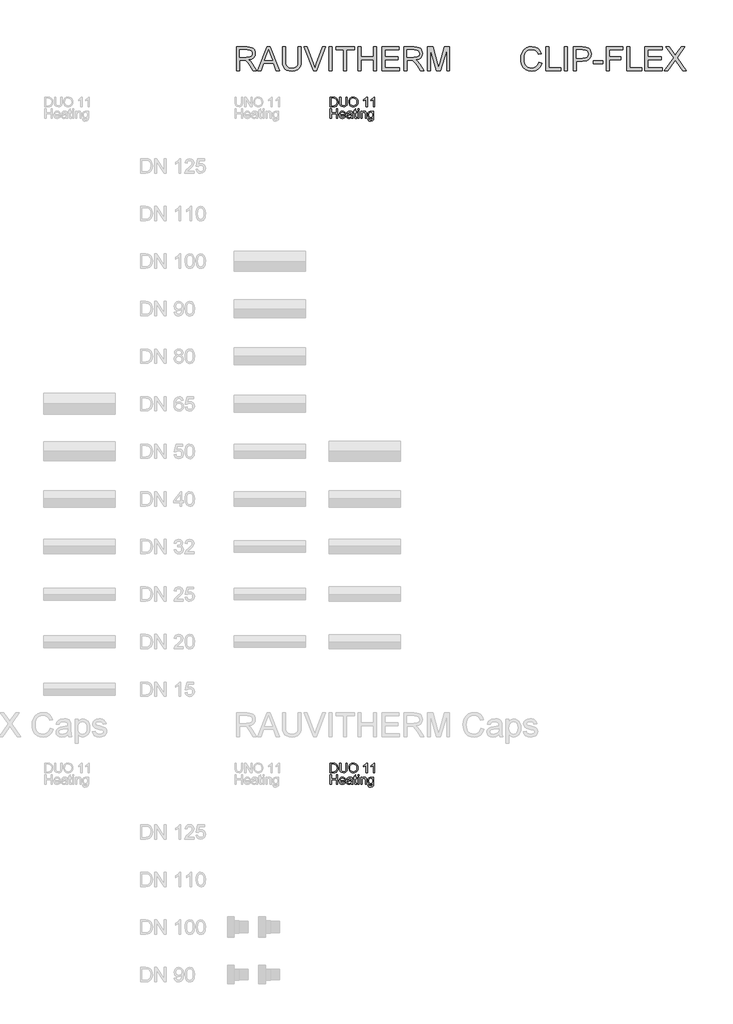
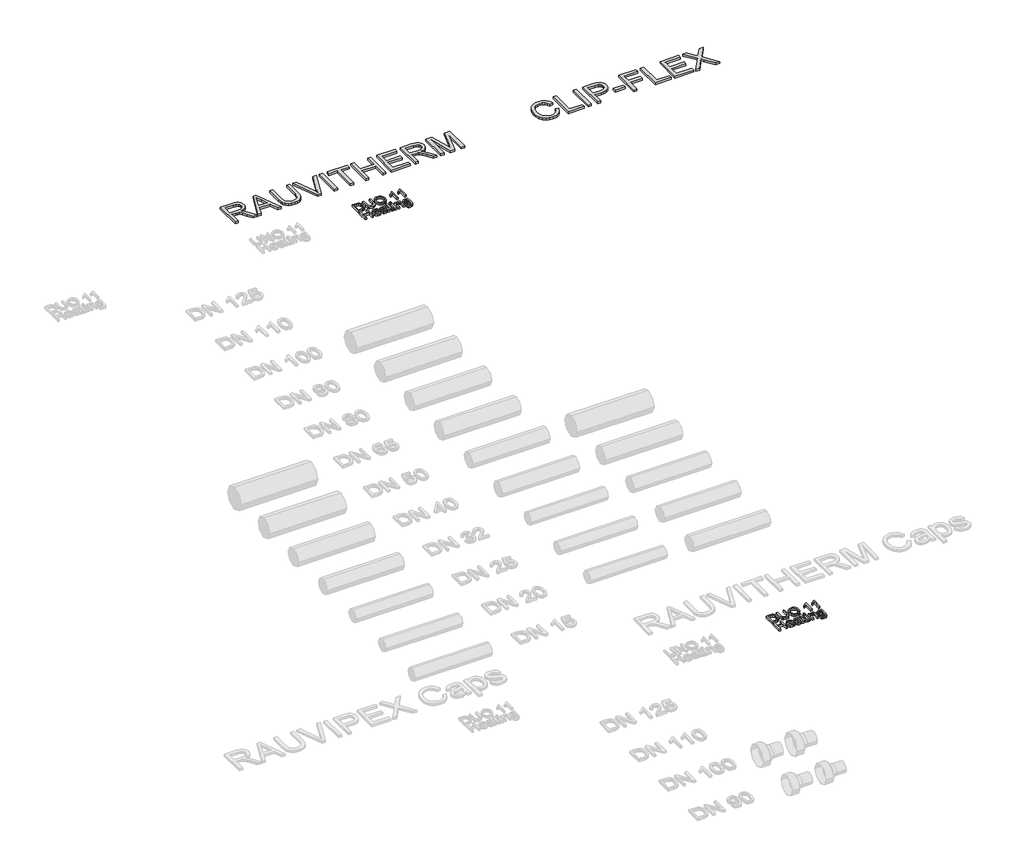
# One storey, part 44 of 44: 4 proxies.
"""IFC4 building model written with IfcOpenShell, lengths in millimetres."""

from ifc_helpers import new_model, si_unit, origin, origin_with_axes, place, context, project, spatial, polyline, outline, extrude, element, save

model = new_model("IFC4")

# Units and contexts
model_context = context("Model", 3, world=origin())
ifc_project = project(units=[si_unit("LENGTHUNIT", "METRE", prefix="MILLI")], contexts=[model_context])

# Site, building, storey
site = spatial("IfcSite", under=ifc_project)
building = spatial("IfcBuilding", under=site)
storey = spatial("IfcBuildingStorey", under=building, Name="REHAU Starting view", Elevation=0.0)

# Proxies
placement = place(None, origin())
element("IfcBuildingElementProxy", 1, Name="100", ObjectType="100", at=placement, inside=storey, context=model_context, shape_type="SweptSolid", body=[
    extrude(outline(polyline([(32010.9874089, 20121.9748178), (32010.9874089, 20222.431128), (32045.6418929, 20222.431128), (32063.5700088, 20220.9841255), (32078.3343395, 20213.7981638), (32090.2291907, 20196.6303374), (32094.1777908, 20172.7425332), (32091.5045149, 20152.4722352), (32084.6373844, 20137.8427946), (32075.4648599, 20128.7315838), (32063.4596442, 20123.6916005), (32047.3096246, 20121.9748178), (32010.9874089, 20121.9748178)]), holes=[polyline([(32023.5444477, 20134.5318566), (32045.7645202, 20134.5318566), (32061.9268025, 20136.3467411), (32071.2464797, 20141.4725636), (32078.8861625, 20153.9437632), (32081.620752, 20172.9387369), (32080.2810484, 20186.6239471), (32076.2619376, 20196.7284393), (32063.2266522, 20207.863001), (32045.4211637, 20209.8740892), (32023.5444477, 20209.8740892), (32023.5444477, 20134.5318566)])]), origin_with_axes(), (0.0, 0.0, 1.0), 20.0),
    extrude(outline(polyline([(32177.3681726, 20222.431128), (32189.9252114, 20222.431128), (32189.9252114, 20164.477451), (32186.5161716, 20140.4547567), (32174.2289129, 20125.9847316), (32163.9650053, 20121.8000739), (32150.9297199, 20120.405188), (32127.9861461, 20125.2612303), (32120.3464634, 20131.2055902), (32115.2574291, 20139.3265853), (32111.4437191, 20164.477451), (32111.4437191, 20222.431128), (32124.0007578, 20222.431128), (32124.0007578, 20164.9189094), (32126.4778299, 20145.7767829), (32134.9881668, 20136.2976902), (32149.7524975, 20132.9622268), (32162.5241341, 20134.6115644), (32171.0160768, 20139.5595772), (32175.7801487, 20149.1980855), (32177.3681726, 20164.9189094), (32177.3681726, 20222.431128)])), origin_with_axes(), (0.0, 0.0, 1.0), 20.0),
    extrude(outline(polyline([(32207.1911397, 20170.8785977), (32210.5388658, 20193.0925389), (32220.5820443, 20209.8986147), (32235.9165921, 20220.4752221), (32255.1384264, 20224.0007578), (32268.3147332, 20222.3452889), (32280.1298766, 20217.3788819), (32289.9400631, 20209.4510249), (32297.1014993, 20198.9112058), (32301.479295, 20186.2683279), (32302.9385603, 20172.0312947), (32301.402653, 20157.6041891), (32296.794931, 20144.7835015), (32289.369846, 20134.2252883), (32279.3818499, 20126.5856055), (32267.667874, 20121.9502924), (32255.06485, 20120.405188), (32241.6862081, 20122.1127736), (32229.8036197, 20127.2355304), (32220.0179586, 20135.3105402), (32212.9300988, 20145.8748848), (32207.1911397, 20170.8785977)]), holes=[polyline([(32219.7481785, 20170.7559704), (32222.2589731, 20155.0412778), (32229.7913569, 20143.0667189), (32241.1129253, 20135.4883498), (32254.9912736, 20132.9622268), (32269.071957, 20135.5128753), (32280.4119195, 20143.1648208), (32287.889121, 20155.5072617), (32290.3815215, 20172.1293965), (32286.1140904, 20192.8534156), (32273.6428907, 20206.575414), (32255.2120028, 20211.4437191), (32241.7046022, 20209.0984714), (32230.2205526, 20202.0627282), (32222.366272, 20189.5455433), (32219.7481785, 20170.7559704)])]), origin_with_axes(), (0.0, 0.0, 1.0), 20.0),
    extrude(outline(polyline([(32401.8252406, 20121.9748178), (32389.2682018, 20121.9748178), (32389.2682018, 20200.2601064), (32377.3733507, 20191.7865578), (32364.1541243, 20185.4467247), (32364.1541243, 20197.3170505), (32382.5604868, 20209.0647488), (32393.7318367, 20222.431128), (32401.8252406, 20222.431128), (32401.8252406, 20121.9748178)])), origin_with_axes(), (0.0, 0.0, 1.0), 20.0),
    extrude(outline(polyline([(32478.7371031, 20121.9748178), (32466.1800643, 20121.9748178), (32466.1800643, 20200.2601064), (32454.2852131, 20191.7865578), (32441.0659868, 20185.4467247), (32441.0659868, 20197.3170505), (32459.4723492, 20209.0647488), (32470.6436992, 20222.431128), (32478.7371031, 20222.431128), (32478.7371031, 20121.9748178)])), origin_with_axes(), (0.0, 0.0, 1.0), 20.0),
    extrude(outline(polyline([(32010.9874089, 20000.0), (32010.9874089, 20100.4563101), (32023.5444477, 20100.4563101), (32023.5444477, 20059.6459342), (32076.9118625, 20059.6459342), (32076.9118625, 20100.4563101), (32089.4689012, 20100.4563101), (32089.4689012, 20000.0), (32076.9118625, 20000.0), (32076.9118625, 20047.0888954), (32023.5444477, 20047.0888954), (32023.5444477, 20000.0), (32010.9874089, 20000.0)])), origin_with_axes(), (0.0, 0.0, 1.0), 20.0),
    extrude(outline(polyline([(32161.5247213, 20021.9748178), (32173.8365055, 20020.405188), (32169.4004617, 20011.1284304), (32162.321799, 20004.1938547), (32152.7599328, 19999.8712413), (32140.8742787, 19998.4303702), (32126.1406048, 20000.9166393), (32114.803708, 20008.3754468), (32107.5748268, 20020.3224146), (32105.1651997, 20036.2731647), (32107.5993522, 20052.7604095), (32114.9018098, 20065.0905877), (32126.0854225, 20072.7793214), (32140.1630402, 20075.3422326), (32153.8022651, 20072.7854527), (32164.7007692, 20065.1151131), (32171.846877, 20052.8094604), (32174.2289129, 20036.3467411), (32174.1553365, 20032.9622268), (32117.7222385, 20032.9622268), (32119.8958079, 20023.5628418), (32124.9449883, 20016.6527916), (32132.2321175, 20012.4037546), (32141.1195333, 20010.9874089), (32153.4313175, 20013.6116338), (32161.5247213, 20021.9748178)]), holes=[polyline([(32117.7222385, 20045.5192655), (32161.6718741, 20045.5192655), (32156.6441535, 20056.8990819), (32149.3233018, 20061.3136659), (32140.1139892, 20062.7851938), (32124.6506827, 20058.088567), (32119.7854433, 20052.5979283), (32117.7222385, 20045.5192655)])]), origin_with_axes(), (0.0, 0.0, 1.0), 20.0),
    extrude(outline(polyline([(32233.8748471, 20009.4177791), (32221.697953, 20000.9074423), (32208.2457347, 19998.4303702), (32197.7519008, 19999.9202922), (32190.0110505, 20004.3900585), (32185.2377816, 20011.1774813), (32183.646692, 20019.6203731), (32186.0501877, 20029.5531869), (32192.3654953, 20036.7636741), (32201.157875, 20040.8839524), (32212.0226566, 20042.7724133), (32233.8012707, 20047.0888954), (32233.8748471, 20049.8847985), (32230.4167563, 20059.1554248), (32216.5353424, 20062.7851938), (32203.8311508, 20060.3694354), (32197.7733606, 20051.7977849), (32185.2163218, 20053.3674148), (32190.6487126, 20065.6301479), (32201.5870706, 20072.8161096), (32218.1540231, 20075.3422326), (32233.372075, 20073.1104152), (32241.968251, 20067.5063461), (32245.8187492, 20058.9837466), (32246.4318858, 20047.9963376), (32246.4318858, 20032.3736156), (32247.069548, 20010.5582133), (32249.5711455, 20000.0), (32237.0141068, 20000.0), (32233.8748471, 20009.4177791)]), holes=[polyline([(32233.8748471, 20034.5318566), (32213.6168119, 20030.6813584), (32202.8133439, 20028.6457447), (32197.9205134, 20025.3348067), (32196.2037308, 20020.5032899), (32199.9438644, 20013.7097357), (32210.9190106, 20010.9874089), (32223.6232021, 20013.9917785), (32231.8147079, 20021.2635793), (32233.8012707, 20030.975664), (32233.8748471, 20034.5318566)])]), origin_with_axes(), (0.0, 0.0, 1.0), 20.0),
    extrude(outline(polyline([(32290.3815215, 20010.4723741), (32291.9511514, 19999.632118), (32282.5578978, 19998.4303702), (32272.0364727, 20000.5150348), (32266.7880229, 20005.9842138), (32265.267444, 20020.2335097), (32265.267444, 20061.215564), (32255.8496649, 20061.215564), (32255.8496649, 20073.7726028), (32265.267444, 20073.7726028), (32265.267444, 20091.7007187), (32277.8244828, 20099.082884), (32277.8244828, 20073.7726028), (32290.3815215, 20073.7726028), (32290.3815215, 20061.215564), (32277.8244828, 20061.215564), (32277.8244828, 20020.6013917), (32278.4866703, 20014.1266686), (32280.6326487, 20011.8335375), (32284.9123425, 20010.9874089), (32290.3815215, 20010.4723741)])), origin_with_axes(), (0.0, 0.0, 1.0), 20.0),
    extrude(outline(polyline([(32302.9385603, 20087.8992714), (32302.9385603, 20100.4563101), (32315.4955991, 20100.4563101), (32315.4955991, 20087.8992714), (32302.9385603, 20087.8992714)])), origin_with_axes(), (0.0, 0.0, 1.0), 20.0),
    extrude(outline(polyline([(32302.9385603, 20000.0), (32302.9385603, 20073.7726028), (32315.4955991, 20073.7726028), (32315.4955991, 20000.0), (32302.9385603, 20000.0)])), origin_with_axes(), (0.0, 0.0, 1.0), 20.0),
    extrude(outline(polyline([(32334.3311572, 20000.0), (32334.3311572, 20073.7726028), (32346.888196, 20073.7726028), (32346.888196, 20063.4719069), (32356.4899161, 20072.3746512), (32369.5987778, 20075.3422326), (32381.4568408, 20072.9509996), (32389.5502447, 20066.6724803), (32393.3149038, 20057.4386422), (32393.9770914, 20045.2985363), (32393.9770914, 20000.0), (32381.4200526, 20000.0), (32381.4200526, 20043.6062792), (32379.9730501, 20054.7163154), (32374.8594904, 20060.5901646), (32366.2387889, 20062.7851938), (32352.6148924, 20057.8555751), (32348.3198701, 20050.712533), (32346.888196, 20039.1426443), (32346.888196, 20000.0), (32334.3311572, 20000.0)])), origin_with_axes(), (0.0, 0.0, 1.0), 20.0),
    extrude(outline(polyline([(32408.10376, 19993.7214806), (32420.6607988, 19992.1518508), (32424.7320262, 19985.5299749), (32436.9211829, 19982.7340717), (32449.7725273, 19985.8978569), (32455.9038939, 19994.7760757), (32456.7622852, 20009.4177791), (32447.9208546, 20002.3544448), (32437.1419121, 20000.0), (32424.1955316, 20002.7407209), (32414.5416949, 20010.9628835), (32408.5360213, 20023.0171502), (32406.5341301, 20037.2541834), (32410.127111, 20056.7151409), (32420.5259087, 20070.4861903), (32436.5287755, 20075.3422326), (32447.7307822, 20072.5953804), (32456.7622852, 20064.3548237), (32456.7622852, 20073.7726028), (32469.319324, 20073.7726028), (32469.319324, 20010.0799667), (32465.8857587, 19985.6893904), (32455.0087144, 19974.3463622), (32436.6759283, 19970.1770329), (32424.9926092, 19971.6454952), (32415.7924937, 19976.0508821), (32409.8910533, 19983.4054563), (32408.10376, 19993.7214806)]), holes=[polyline([(32419.0911689, 20038.1125747), (32420.4308725, 20026.5948026), (32424.4499833, 20018.6761426), (32430.4924451, 20014.0868147), (32437.9022016, 20012.5570388), (32445.2567758, 20014.0776177), (32451.3298944, 20018.6393544), (32455.4041875, 20026.4568468), (32456.7622852, 20037.7446927), (32455.3643336, 20048.6309341), (32451.1704789, 20056.4698863), (32445.0084555, 20061.2063669), (32437.7059979, 20062.7851938), (32430.5353646, 20061.2308924), (32424.5235597, 20056.5679881), (32420.4492666, 20048.8455319), (32419.0911689, 20038.1125747)])]), origin_with_axes(), (0.0, 0.0, 1.0), 20.0),
])
element("IfcBuildingElementProxy", 2, Name="100", ObjectType="100", at=placement, inside=storey, context=model_context, shape_type="SweptSolid", body=[
    extrude(outline(polyline([(32010.9874089, 13121.9748178), (32010.9874089, 13222.431128), (32045.6418929, 13222.431128), (32063.5700088, 13220.9841255), (32078.3343395, 13213.7981638), (32090.2291907, 13196.6303374), (32094.1777908, 13172.7425332), (32091.5045149, 13152.4722352), (32084.6373844, 13137.8427946), (32075.4648599, 13128.7315838), (32063.4596442, 13123.6916005), (32047.3096246, 13121.9748178), (32010.9874089, 13121.9748178)]), holes=[polyline([(32023.5444477, 13134.5318566), (32045.7645202, 13134.5318566), (32061.9268025, 13136.3467411), (32071.2464797, 13141.4725636), (32078.8861625, 13153.9437632), (32081.620752, 13172.9387369), (32080.2810484, 13186.6239471), (32076.2619376, 13196.7284393), (32063.2266522, 13207.863001), (32045.4211637, 13209.8740892), (32023.5444477, 13209.8740892), (32023.5444477, 13134.5318566)])]), origin_with_axes(), (0.0, 0.0, 1.0), 20.0),
    extrude(outline(polyline([(32177.3681726, 13222.431128), (32189.9252114, 13222.431128), (32189.9252114, 13164.477451), (32186.5161716, 13140.4547567), (32174.2289129, 13125.9847316), (32163.9650053, 13121.8000739), (32150.9297199, 13120.405188), (32127.9861461, 13125.2612303), (32120.3464634, 13131.2055902), (32115.2574291, 13139.3265853), (32111.4437191, 13164.477451), (32111.4437191, 13222.431128), (32124.0007578, 13222.431128), (32124.0007578, 13164.9189094), (32126.4778299, 13145.7767829), (32134.9881668, 13136.2976902), (32149.7524975, 13132.9622268), (32162.5241341, 13134.6115644), (32171.0160768, 13139.5595772), (32175.7801487, 13149.1980855), (32177.3681726, 13164.9189094), (32177.3681726, 13222.431128)])), origin_with_axes(), (0.0, 0.0, 1.0), 20.0),
    extrude(outline(polyline([(32207.1911397, 13170.8785977), (32210.5388658, 13193.0925389), (32220.5820443, 13209.8986147), (32235.9165921, 13220.4752221), (32255.1384264, 13224.0007578), (32268.3147332, 13222.3452889), (32280.1298766, 13217.3788819), (32289.9400631, 13209.4510249), (32297.1014993, 13198.9112058), (32301.479295, 13186.2683279), (32302.9385603, 13172.0312947), (32301.402653, 13157.6041891), (32296.794931, 13144.7835015), (32289.369846, 13134.2252883), (32279.3818499, 13126.5856055), (32267.667874, 13121.9502924), (32255.06485, 13120.405188), (32241.6862081, 13122.1127736), (32229.8036197, 13127.2355304), (32220.0179586, 13135.3105402), (32212.9300988, 13145.8748848), (32207.1911397, 13170.8785977)]), holes=[polyline([(32219.7481785, 13170.7559704), (32222.2589731, 13155.0412778), (32229.7913569, 13143.0667189), (32241.1129253, 13135.4883498), (32254.9912736, 13132.9622268), (32269.071957, 13135.5128753), (32280.4119195, 13143.1648208), (32287.889121, 13155.5072617), (32290.3815215, 13172.1293965), (32286.1140904, 13192.8534156), (32273.6428907, 13206.575414), (32255.2120028, 13211.4437191), (32241.7046022, 13209.0984714), (32230.2205526, 13202.0627282), (32222.366272, 13189.5455433), (32219.7481785, 13170.7559704)])]), origin_with_axes(), (0.0, 0.0, 1.0), 20.0),
    extrude(outline(polyline([(32401.8252406, 13121.9748178), (32389.2682018, 13121.9748178), (32389.2682018, 13200.2601064), (32377.3733507, 13191.7865578), (32364.1541243, 13185.4467247), (32364.1541243, 13197.3170505), (32382.5604868, 13209.0647488), (32393.7318367, 13222.431128), (32401.8252406, 13222.431128), (32401.8252406, 13121.9748178)])), origin_with_axes(), (0.0, 0.0, 1.0), 20.0),
    extrude(outline(polyline([(32478.7371031, 13121.9748178), (32466.1800643, 13121.9748178), (32466.1800643, 13200.2601064), (32454.2852131, 13191.7865578), (32441.0659868, 13185.4467247), (32441.0659868, 13197.3170505), (32459.4723492, 13209.0647488), (32470.6436992, 13222.431128), (32478.7371031, 13222.431128), (32478.7371031, 13121.9748178)])), origin_with_axes(), (0.0, 0.0, 1.0), 20.0),
    extrude(outline(polyline([(32010.9874089, 13000.0), (32010.9874089, 13100.4563101), (32023.5444477, 13100.4563101), (32023.5444477, 13059.6459342), (32076.9118625, 13059.6459342), (32076.9118625, 13100.4563101), (32089.4689012, 13100.4563101), (32089.4689012, 13000.0), (32076.9118625, 13000.0), (32076.9118625, 13047.0888954), (32023.5444477, 13047.0888954), (32023.5444477, 13000.0), (32010.9874089, 13000.0)])), origin_with_axes(), (0.0, 0.0, 1.0), 20.0),
    extrude(outline(polyline([(32161.5247213, 13021.9748178), (32173.8365055, 13020.405188), (32169.4004617, 13011.1284304), (32162.321799, 13004.1938547), (32152.7599328, 12999.8712413), (32140.8742787, 12998.4303702), (32126.1406048, 13000.9166393), (32114.803708, 13008.3754468), (32107.5748268, 13020.3224146), (32105.1651997, 13036.2731647), (32107.5993522, 13052.7604095), (32114.9018098, 13065.0905877), (32126.0854225, 13072.7793214), (32140.1630402, 13075.3422326), (32153.8022651, 13072.7854527), (32164.7007692, 13065.1151131), (32171.846877, 13052.8094604), (32174.2289129, 13036.3467411), (32174.1553365, 13032.9622268), (32117.7222385, 13032.9622268), (32119.8958079, 13023.5628418), (32124.9449883, 13016.6527916), (32132.2321175, 13012.4037546), (32141.1195333, 13010.9874089), (32153.4313175, 13013.6116338), (32161.5247213, 13021.9748178)]), holes=[polyline([(32117.7222385, 13045.5192655), (32161.6718741, 13045.5192655), (32156.6441535, 13056.8990819), (32149.3233018, 13061.3136659), (32140.1139892, 13062.7851938), (32124.6506827, 13058.088567), (32119.7854433, 13052.5979283), (32117.7222385, 13045.5192655)])]), origin_with_axes(), (0.0, 0.0, 1.0), 20.0),
    extrude(outline(polyline([(32233.8748471, 13009.4177791), (32221.697953, 13000.9074423), (32208.2457347, 12998.4303702), (32197.7519008, 12999.9202922), (32190.0110505, 13004.3900585), (32185.2377816, 13011.1774813), (32183.646692, 13019.6203731), (32186.0501877, 13029.5531869), (32192.3654953, 13036.7636741), (32201.157875, 13040.8839524), (32212.0226566, 13042.7724133), (32233.8012707, 13047.0888954), (32233.8748471, 13049.8847985), (32230.4167563, 13059.1554248), (32216.5353424, 13062.7851938), (32203.8311508, 13060.3694354), (32197.7733606, 13051.7977849), (32185.2163218, 13053.3674148), (32190.6487126, 13065.6301479), (32201.5870706, 13072.8161096), (32218.1540231, 13075.3422326), (32233.372075, 13073.1104152), (32241.968251, 13067.5063461), (32245.8187492, 13058.9837466), (32246.4318858, 13047.9963376), (32246.4318858, 13032.3736156), (32247.069548, 13010.5582133), (32249.5711455, 13000.0), (32237.0141068, 13000.0), (32233.8748471, 13009.4177791)]), holes=[polyline([(32233.8748471, 13034.5318566), (32213.6168119, 13030.6813584), (32202.8133439, 13028.6457447), (32197.9205134, 13025.3348067), (32196.2037308, 13020.5032899), (32199.9438644, 13013.7097357), (32210.9190106, 13010.9874089), (32223.6232021, 13013.9917785), (32231.8147079, 13021.2635793), (32233.8012707, 13030.975664), (32233.8748471, 13034.5318566)])]), origin_with_axes(), (0.0, 0.0, 1.0), 20.0),
    extrude(outline(polyline([(32290.3815215, 13010.4723741), (32291.9511514, 12999.632118), (32282.5578978, 12998.4303702), (32272.0364727, 13000.5150348), (32266.7880229, 13005.9842138), (32265.267444, 13020.2335097), (32265.267444, 13061.215564), (32255.8496649, 13061.215564), (32255.8496649, 13073.7726028), (32265.267444, 13073.7726028), (32265.267444, 13091.7007187), (32277.8244828, 13099.082884), (32277.8244828, 13073.7726028), (32290.3815215, 13073.7726028), (32290.3815215, 13061.215564), (32277.8244828, 13061.215564), (32277.8244828, 13020.6013917), (32278.4866703, 13014.1266686), (32280.6326487, 13011.8335375), (32284.9123425, 13010.9874089), (32290.3815215, 13010.4723741)])), origin_with_axes(), (0.0, 0.0, 1.0), 20.0),
    extrude(outline(polyline([(32302.9385603, 13087.8992714), (32302.9385603, 13100.4563101), (32315.4955991, 13100.4563101), (32315.4955991, 13087.8992714), (32302.9385603, 13087.8992714)])), origin_with_axes(), (0.0, 0.0, 1.0), 20.0),
    extrude(outline(polyline([(32302.9385603, 13000.0), (32302.9385603, 13073.7726028), (32315.4955991, 13073.7726028), (32315.4955991, 13000.0), (32302.9385603, 13000.0)])), origin_with_axes(), (0.0, 0.0, 1.0), 20.0),
    extrude(outline(polyline([(32334.3311572, 13000.0), (32334.3311572, 13073.7726028), (32346.888196, 13073.7726028), (32346.888196, 13063.4719069), (32356.4899161, 13072.3746512), (32369.5987778, 13075.3422326), (32381.4568408, 13072.9509996), (32389.5502447, 13066.6724803), (32393.3149038, 13057.4386422), (32393.9770914, 13045.2985363), (32393.9770914, 13000.0), (32381.4200526, 13000.0), (32381.4200526, 13043.6062792), (32379.9730501, 13054.7163154), (32374.8594904, 13060.5901646), (32366.2387889, 13062.7851938), (32352.6148924, 13057.8555751), (32348.3198701, 13050.712533), (32346.888196, 13039.1426443), (32346.888196, 13000.0), (32334.3311572, 13000.0)])), origin_with_axes(), (0.0, 0.0, 1.0), 20.0),
    extrude(outline(polyline([(32408.10376, 12993.7214806), (32420.6607988, 12992.1518508), (32424.7320262, 12985.5299749), (32436.9211829, 12982.7340717), (32449.7725273, 12985.8978569), (32455.9038939, 12994.7760757), (32456.7622852, 13009.4177791), (32447.9208546, 13002.3544448), (32437.1419121, 13000.0), (32424.1955316, 13002.7407209), (32414.5416949, 13010.9628835), (32408.5360213, 13023.0171502), (32406.5341301, 13037.2541834), (32410.127111, 13056.7151409), (32420.5259087, 13070.4861903), (32436.5287755, 13075.3422326), (32447.7307822, 13072.5953804), (32456.7622852, 13064.3548237), (32456.7622852, 13073.7726028), (32469.319324, 13073.7726028), (32469.319324, 13010.0799667), (32465.8857587, 12985.6893904), (32455.0087144, 12974.3463622), (32436.6759283, 12970.1770329), (32424.9926092, 12971.6454952), (32415.7924937, 12976.0508821), (32409.8910533, 12983.4054563), (32408.10376, 12993.7214806)]), holes=[polyline([(32419.0911689, 13038.1125747), (32420.4308725, 13026.5948026), (32424.4499833, 13018.6761426), (32430.4924451, 13014.0868147), (32437.9022016, 13012.5570388), (32445.2567758, 13014.0776177), (32451.3298944, 13018.6393544), (32455.4041875, 13026.4568468), (32456.7622852, 13037.7446927), (32455.3643336, 13048.6309341), (32451.1704789, 13056.4698863), (32445.0084555, 13061.2063669), (32437.7059979, 13062.7851938), (32430.5353646, 13061.2308924), (32424.5235597, 13056.5679881), (32420.4492666, 13048.8455319), (32419.0911689, 13038.1125747)])]), origin_with_axes(), (0.0, 0.0, 1.0), 20.0),
])
element("IfcBuildingElementProxy", 3, Name="250", ObjectType="250", at=placement, inside=storey, context=model_context, shape_type="SweptSolid", body=[
    extrude(outline(polyline([(31027.4685223, 20500.0), (31027.4685223, 20751.1407754), (31135.6871426, 20751.1407754), (31164.7728128, 20749.4469854), (31185.9336917, 20744.3656153), (31201.4000639, 20734.9846244), (31213.402214, 20720.3919719), (31221.1047433, 20702.2967763), (31223.6722531, 20682.4081559), (31219.4186175, 20657.6680918), (31206.6577108, 20637.1586705), (31185.0063225, 20622.121494), (31154.0812423, 20613.7981638), (31171.9235191, 20600.370471), (31197.3686904, 20568.0581691), (31239.2459242, 20500.0), (31202.764293, 20500.0), (31170.0841091, 20552.0553023), (31146.4783477, 20586.5135825), (31129.8930011, 20602.7923608), (31114.9631235, 20608.7704432), (31096.7529647, 20609.8740892), (31058.8611192, 20609.8740892), (31058.8611192, 20500.0), (31027.4685223, 20500.0)]), holes=[polyline([(31058.8611192, 20641.2666861), (31129.1265803, 20641.2666861), (31164.964418, 20645.7119269), (31176.7519703, 20651.4907399), (31185.3205551, 20659.9366974), (31190.5398809, 20670.153087), (31192.2796561, 20681.2431963), (31188.961054, 20696.5562843), (31179.0052475, 20708.8956596), (31161.8757421, 20717.0350487), (31137.0360432, 20719.7481785), (31058.8611192, 20719.7481785), (31058.8611192, 20641.2666861)])]), origin_with_axes(), (0.0, 0.0, 1.0), 20.0),
    extrude(outline(polyline([(31249.3626791, 20500.0), (31349.6105227, 20751.1407754), (31376.3432811, 20751.1407754), (31476.5911248, 20500.0), (31443.4204315, 20500.0), (31414.6643222, 20578.4814923), (31311.2281679, 20578.4814923), (31282.5333723, 20500.0), (31249.3626791, 20500.0)]), holes=[polyline([(31322.7551371, 20609.8740892), (31403.1986667, 20609.8740892), (31380.573924, 20671.6169507), (31362.9769019, 20719.7481785), (31347.3419171, 20677.0125533), (31322.7551371, 20609.8740892)])]), origin_with_axes(), (0.0, 0.0, 1.0), 20.0),
    extrude(outline(polyline([(31674.9408338, 20751.1407754), (31706.3334307, 20751.1407754), (31706.3334307, 20606.2565829), (31704.2027809, 20572.3271331), (31697.8108312, 20546.1998472), (31685.8699948, 20526.0429796), (31667.0926846, 20510.0247844), (31641.4329154, 20499.5631401), (31608.844702, 20496.0759254), (31576.96926, 20499.1109518), (31551.4857676, 20508.2160312), (31532.3865607, 20523.076931), (31519.663975, 20543.3794186), (31512.5132687, 20570.6103504), (31510.1297, 20606.2565829), (31510.1297, 20751.1407754), (31541.5222969, 20751.1407754), (31541.5222969, 20607.3602289), (31543.070467, 20579.1482784), (31547.7149772, 20559.5049127), (31556.1302778, 20545.9009431), (31568.9908192, 20535.8071809), (31585.7601068, 20529.5531869), (31605.9016461, 20527.4685223), (31637.8307376, 20531.5918663), (31659.0605944, 20543.9618984), (31666.0081991, 20554.1093101), (31670.970774, 20568.0581691), (31674.9408338, 20607.3602289), (31674.9408338, 20751.1407754)])), origin_with_axes(), (0.0, 0.0, 1.0), 20.0),
    extrude(outline(polyline([(31835.460011, 20500.0), (31735.5187357, 20751.1407754), (31769.1186246, 20751.1407754), (31836.011834, 20570.2041474), (31849.5621542, 20529.4305596), (31862.9285334, 20570.2041474), (31930.0056838, 20751.1407754), (31963.6055727, 20751.1407754), (31867.8949403, 20500.0), (31835.460011, 20500.0)])), origin_with_axes(), (0.0, 0.0, 1.0), 20.0),
    extrude(outline(polyline([(31996.7149523, 20500.0), (31996.7149523, 20751.1407754), (32028.1075492, 20751.1407754), (32028.1075492, 20500.0), (31996.7149523, 20500.0)])), origin_with_axes(), (0.0, 0.0, 1.0), 20.0),
    extrude(outline(polyline([(32153.6779369, 20500.0), (32153.6779369, 20719.7481785), (32071.27237, 20719.7481785), (32071.27237, 20751.1407754), (32267.4761007, 20751.1407754), (32267.4761007, 20719.7481785), (32185.0705338, 20719.7481785), (32185.0705338, 20500.0), (32153.6779369, 20500.0)])), origin_with_axes(), (0.0, 0.0, 1.0), 20.0),
    extrude(outline(polyline([(32302.7927723, 20500.0), (32302.7927723, 20751.1407754), (32334.1853692, 20751.1407754), (32334.1853692, 20649.1148354), (32467.6039061, 20649.1148354), (32467.6039061, 20751.1407754), (32498.996503, 20751.1407754), (32498.996503, 20500.0), (32467.6039061, 20500.0), (32467.6039061, 20617.7222385), (32334.1853692, 20617.7222385), (32334.1853692, 20500.0), (32302.7927723, 20500.0)])), origin_with_axes(), (0.0, 0.0, 1.0), 20.0),
    extrude(outline(polyline([(32553.9335476, 20500.0), (32553.9335476, 20751.1407754), (32734.4409799, 20751.1407754), (32734.4409799, 20719.7481785), (32585.3261445, 20719.7481785), (32585.3261445, 20645.1907608), (32726.5928307, 20645.1907608), (32726.5928307, 20613.7981638), (32585.3261445, 20613.7981638), (32585.3261445, 20531.3925969), (32738.3650545, 20531.3925969), (32738.3650545, 20500.0), (32553.9335476, 20500.0)])), origin_with_axes(), (0.0, 0.0, 1.0), 20.0),
    extrude(outline(polyline([(32785.4539499, 20500.0), (32785.4539499, 20751.1407754), (32893.6725702, 20751.1407754), (32922.7582404, 20749.4469854), (32943.9191193, 20744.3656153), (32959.3854916, 20734.9846244), (32971.3876417, 20720.3919719), (32979.0901709, 20702.2967763), (32981.6576807, 20682.4081559), (32977.4040451, 20657.6680918), (32964.6431384, 20637.1586705), (32942.9917502, 20622.121494), (32912.0666699, 20613.7981638), (32929.9089467, 20600.370471), (32955.354118, 20568.0581691), (32997.2313518, 20500.0), (32960.7497206, 20500.0), (32928.0695367, 20552.0553023), (32904.4637754, 20586.5135825), (32887.8784287, 20602.7923608), (32872.9485511, 20608.7704432), (32854.7383923, 20609.8740892), (32816.8465468, 20609.8740892), (32816.8465468, 20500.0), (32785.4539499, 20500.0)]), holes=[polyline([(32816.8465468, 20641.2666861), (32887.1120079, 20641.2666861), (32922.9498456, 20645.7119269), (32934.7373979, 20651.4907399), (32943.3059827, 20659.9366974), (32948.5253085, 20670.153087), (32950.2650838, 20681.2431963), (32946.9464816, 20696.5562843), (32936.9906751, 20708.8956596), (32919.8611697, 20717.0350487), (32895.0214708, 20719.7481785), (32816.8465468, 20719.7481785), (32816.8465468, 20641.2666861)])]), origin_with_axes(), (0.0, 0.0, 1.0), 20.0),
    extrude(outline(polyline([(33036.5947253, 20500.0), (33036.5947253, 20751.1407754), (33090.6120649, 20751.1407754), (33141.9929169, 20574.128222), (33152.3549264, 20537.1560815), (33163.5753273, 20577.1939053), (33214.097788, 20751.1407754), (33268.1151276, 20751.1407754), (33268.1151276, 20500.0), (33236.7225307, 20500.0), (33236.7225307, 20719.7481785), (33173.6307685, 20500.0), (33131.0790844, 20500.0), (33067.9873222, 20719.7481785), (33067.9873222, 20500.0), (33036.5947253, 20500.0)])), origin_with_axes(), (0.0, 0.0, 1.0), 20.0),
])
element("IfcBuildingElementProxy", 4, Name="250", ObjectType="250", at=placement, inside=storey, context=model_context, shape_type="SweptSolid", body=[
    extrude(outline(polyline([(34204.05188, 20589.2726975), (34235.4444769, 20581.1792936), (34220.9591234, 20544.5980277), (34198.2270817, 20517.8729336), (34168.3673265, 20501.5251774), (34132.4988319, 20496.0759254), (34096.0861786, 20500.1992694), (34067.169121, 20512.5693015), (34045.0042307, 20532.756826), (34028.8480798, 20560.3326472), (34018.9842438, 20592.752248), (34015.6962985, 20627.4711113), (34019.4134395, 20664.0906983), (34030.5648624, 20695.7132214), (34048.5680876, 20721.3346696), (34072.840635, 20739.9510314), (34101.6274012, 20751.2863953), (34133.1732823, 20755.06485), (34167.5932414, 20750.1750851), (34196.0504466, 20735.5057906), (34217.6558496, 20711.9613429), (34231.5204023, 20680.4461186), (34200.1278054, 20672.9658514), (34189.2446297, 20695.8588414), (34174.3760657, 20711.5628041), (34155.3381725, 20720.6448908), (34131.9470089, 20723.6722531), (34104.9843244, 20720.3153299), (34082.8347626, 20710.2445602), (34066.0271539, 20694.5176049), (34055.0903288, 20674.1921247), (34049.0892537, 20651.2148284), (34047.0888954, 20627.532425), (34049.4571357, 20598.531061), (34056.5618568, 20573.4537717), (34068.6713058, 20553.258583), (34086.05373, 20538.903521), (34106.8927122, 20530.327272), (34129.371835, 20527.4685223), (34155.5757629, 20531.3619401), (34177.4110922, 20543.0421934), (34193.8968041, 20562.386655), (34204.05188, 20589.2726975)])), origin_with_axes(), (0.0, 0.0, 1.0), 20.0),
    extrude(outline(polyline([(34278.6092977, 20500.0), (34278.6092977, 20751.1407754), (34310.0018946, 20751.1407754), (34310.0018946, 20531.3925969), (34435.5722823, 20531.3925969), (34435.5722823, 20500.0), (34278.6092977, 20500.0)])), origin_with_axes(), (0.0, 0.0, 1.0), 20.0),
    extrude(outline(polyline([(34474.8130284, 20500.0), (34474.8130284, 20751.1407754), (34506.2056254, 20751.1407754), (34506.2056254, 20500.0), (34474.8130284, 20500.0)])), origin_with_axes(), (0.0, 0.0, 1.0), 20.0),
    extrude(outline(polyline([(34568.9908192, 20500.0), (34568.9908192, 20751.1407754), (34662.064964, 20751.1407754), (34699.5889275, 20748.7495424), (34716.3198941, 20744.281309), (34730.0924763, 20737.0079754), (34741.1825856, 20726.5999806), (34749.8661335, 20712.7277637), (34755.4763339, 20696.3646791), (34757.3464007, 20678.4840813), (34752.2956875, 20648.8849091), (34737.1435478, 20624.221487), (34725.0091902, 20614.5109352), (34708.80897, 20607.5748268), (34688.5428874, 20603.4131617), (34664.2109423, 20602.02594), (34600.3834161, 20602.02594), (34600.3834161, 20500.0), (34568.9908192, 20500.0)]), holes=[polyline([(34600.3834161, 20633.4185369), (34666.0503523, 20633.4185369), (34693.8867566, 20636.3002792), (34712.2808563, 20644.9455061), (34722.5355669, 20658.817723), (34725.9538038, 20677.3804353), (34723.9381171, 20691.4825785), (34717.8910568, 20703.3774297), (34708.5637153, 20712.3292249), (34696.7071852, 20717.6022001), (34665.3145883, 20719.7481785), (34600.3834161, 20719.7481785), (34600.3834161, 20633.4185369)])]), origin_with_axes(), (0.0, 0.0, 1.0), 20.0),
    extrude(outline(polyline([(34780.8908484, 20574.5574177), (34780.8908484, 20605.9500146), (34878.9927138, 20605.9500146), (34878.9927138, 20574.5574177), (34780.8908484, 20574.5574177)])), origin_with_axes(), (0.0, 0.0, 1.0), 20.0),
    extrude(outline(polyline([(34918.23346, 20500.0), (34918.23346, 20751.1407754), (35086.9686684, 20751.1407754), (35086.9686684, 20719.7481785), (34949.6260569, 20719.7481785), (34949.6260569, 20645.1907608), (35067.3482953, 20645.1907608), (35067.3482953, 20613.7981638), (34949.6260569, 20613.7981638), (34949.6260569, 20500.0), (34918.23346, 20500.0)])), origin_with_axes(), (0.0, 0.0, 1.0), 20.0),
    extrude(outline(polyline([(35130.1334892, 20500.0), (35130.1334892, 20751.1407754), (35161.5260861, 20751.1407754), (35161.5260861, 20531.3925969), (35287.0964738, 20531.3925969), (35287.0964738, 20500.0), (35130.1334892, 20500.0)])), origin_with_axes(), (0.0, 0.0, 1.0), 20.0),
    extrude(outline(polyline([(35322.4131453, 20500.0), (35322.4131453, 20751.1407754), (35502.9205776, 20751.1407754), (35502.9205776, 20719.7481785), (35353.8057423, 20719.7481785), (35353.8057423, 20645.1907608), (35495.0724284, 20645.1907608), (35495.0724284, 20613.7981638), (35353.8057423, 20613.7981638), (35353.8057423, 20531.3925969), (35506.8446522, 20531.3925969), (35506.8446522, 20500.0), (35322.4131453, 20500.0)])), origin_with_axes(), (0.0, 0.0, 1.0), 20.0),
    extrude(outline(polyline([(35526.4650253, 20500.0), (35623.2793037, 20636.8521022), (35542.1613238, 20751.1407754), (35579.8079146, 20751.1407754), (35625.4865957, 20686.8227399), (35640.8763258, 20661.7454505), (35658.9025436, 20687.2519355), (35704.0907153, 20751.1407754), (35742.2891292, 20751.1407754), (35661.1711492, 20636.4842202), (35757.9854276, 20500.0), (35720.3388368, 20500.0), (35655.8368603, 20590.9894801), (35642.4091675, 20609.8740892), (35627.632574, 20589.1500702), (35564.6634392, 20500.0), (35526.4650253, 20500.0)])), origin_with_axes(), (0.0, 0.0, 1.0), 20.0),
])

save(model, "model.ifc")
